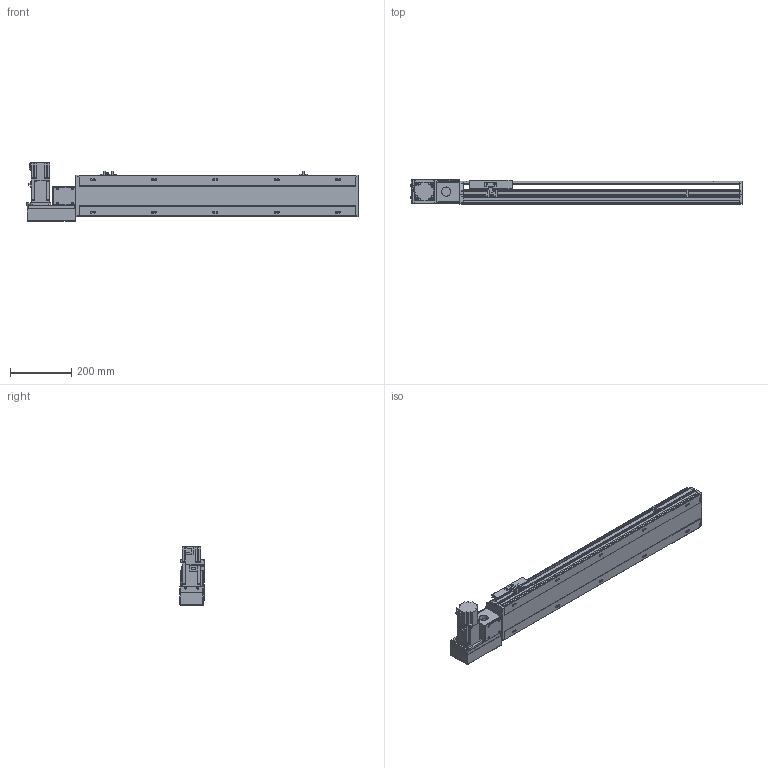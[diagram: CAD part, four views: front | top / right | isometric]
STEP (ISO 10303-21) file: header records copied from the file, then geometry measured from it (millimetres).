
FILE_DESCRIPTION( ( 'STEP AP214' ), '1' );
FILE_NAME( 'x:/temp/worker_27/temp/exporttempdir_6708_293_iD0dE/format_0/PBS140-P40-S650-L-T40-C1-N(0).stp', '2022-06-06T01:01:05', ( 'License CC BY-ND 4.0' ), ( 'CADENAS' ), ' ', 'PARTsolutions', ' ' );
FILE_SCHEMA( ( 'AUTOMOTIVE_DESIGN { 1 0 10303 214 1 1 1 1 }' ) );
Length unit declared in the file: millimetre
Products named in the file (7): PBS140-P40-S650-L-T40-C1-N(0); _PBS140-S650()_body; _PBS140T-L_motors; _T40-p1; _PBS140_sliser; _PBS140_plant; _PBS140_sensor
Assembly tree (8 placements, depth 2):
  PBS140-P40-S650-L-T40-C1-N(0)
    _PBS140-S650()_body
    _PBS140T-L_motors
    _T40-p1
    _PBS140_sliser
    _PBS140_plant
    _PBS140_sensor  x3
Bounding box: 1083 x 80.5 x 189.7 mm (x, y, z)
Volume: 5047299.6 mm3; surface area: 896342.4 mm2
Topology: 8 solids, 8 shells, 1027 faces, 2716 edges, 1775 vertices
Faces by surface type: plane 674, cylinder 307, cone 36, sphere 8, torus 2
Full cylindrical faces by diameter (mm): 3.242 x4, 4 x2, 4.134 x4, 4.4 x8, 4.5 x2, 4.8 x4, 4.917 x18, 5.5 x7, 6 x2, 7 x12, 7.5 x8, 8 x12, 8.5 x4, 10.5 x10, 14 x1, 30 x2, 50 x2
Entity records: 37363 total; most frequent: CARTESIAN_POINT 5747, DIRECTION 4987, ORIENTED_EDGE 4732, EDGE_CURVE 2366, AXIS2_PLACEMENT_3D 1717, VERTEX_POINT 1629, LINE 1553, VECTOR 1553
